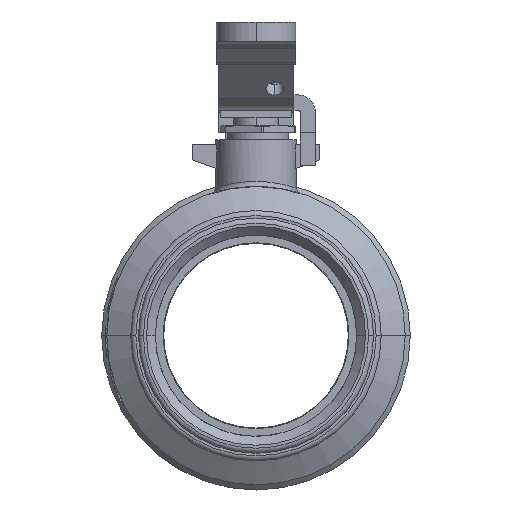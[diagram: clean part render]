
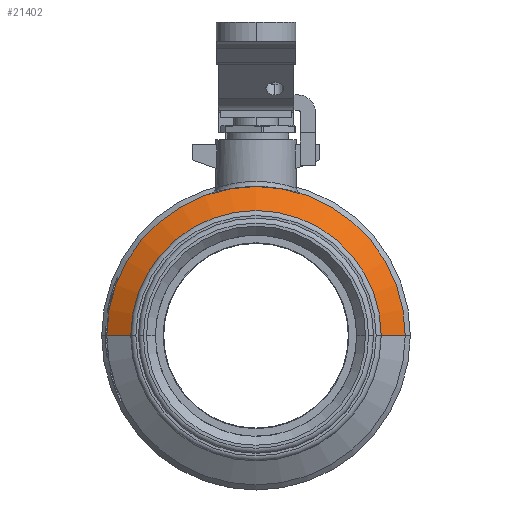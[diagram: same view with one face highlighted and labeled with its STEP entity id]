
A CAD part, left-side view. The second image highlights one B-rep face of the part: STEP entity #21402.
In plain terms, the highlighted conical face has half-angle 57.925 degrees and reference radius 49.5 mm.
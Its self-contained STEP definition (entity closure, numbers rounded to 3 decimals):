
#418 = CYLINDRICAL_SURFACE('',#419,59.);
#419 = AXIS2_PLACEMENT_3D('',#420,#421,#422);
#420 = CARTESIAN_POINT('',(-98.,0.,0.));
#421 = DIRECTION('',(-1.,0.,0.));
#422 = DIRECTION('',(-0.,-1.,0.));
#20141 = VERTEX_POINT('',#20142);
#20142 = CARTESIAN_POINT('',(-34.,59.,0.));
#20163 = EDGE_CURVE('',#20164,#20141,#20166,.T.);
#20164 = VERTEX_POINT('',#20165);
#20165 = CARTESIAN_POINT('',(-34.,-59.,0.));
#20166 = SURFACE_CURVE('',#20167,(#20172,#20179),.PCURVE_S1.);
#20167 = CIRCLE('',#20168,59.);
#20168 = AXIS2_PLACEMENT_3D('',#20169,#20170,#20171);
#20169 = CARTESIAN_POINT('',(-34.,0.,0.));
#20170 = DIRECTION('',(-1.,0.,0.));
#20171 = DIRECTION('',(-0.,-1.,0.));
#20172 = PCURVE('',#418,#20173);
#20173 = DEFINITIONAL_REPRESENTATION('',(#20174),#20178);
#20174 = LINE('',#20175,#20176);
#20175 = CARTESIAN_POINT('',(0.,-64.));
#20176 = VECTOR('',#20177,1.);
#20177 = DIRECTION('',(1.,0.));
#20178 = ( GEOMETRIC_REPRESENTATION_CONTEXT(2) 
PARAMETRIC_REPRESENTATION_CONTEXT() REPRESENTATION_CONTEXT('2D SPACE',''
  ) );
#20179 = PCURVE('',#20180,#20185);
#20180 = CONICAL_SURFACE('',#20181,49.5,1.011);
#20181 = AXIS2_PLACEMENT_3D('',#20182,#20183,#20184);
#20182 = CARTESIAN_POINT('',(-39.953,0.,0.));
#20183 = DIRECTION('',(1.,0.,0.));
#20184 = DIRECTION('',(-0.,1.,0.));
#20185 = DEFINITIONAL_REPRESENTATION('',(#20186),#20190);
#20186 = LINE('',#20187,#20188);
#20187 = CARTESIAN_POINT('',(3.142,5.953));
#20188 = VECTOR('',#20189,1.);
#20189 = DIRECTION('',(-1.,0.));
#20190 = ( GEOMETRIC_REPRESENTATION_CONTEXT(2) 
PARAMETRIC_REPRESENTATION_CONTEXT() REPRESENTATION_CONTEXT('2D SPACE',''
  ) );
#21402 = ADVANCED_FACE('',(#21403),#20180,.T.);
#21403 = FACE_BOUND('',#21404,.T.);
#21404 = EDGE_LOOP('',(#21405,#21436,#21462,#21463));
#21405 = ORIENTED_EDGE('',*,*,#21406,.F.);
#21406 = EDGE_CURVE('',#21407,#21409,#21411,.T.);
#21407 = VERTEX_POINT('',#21408);
#21408 = CARTESIAN_POINT('',(-39.953,-49.5,
    0.));
#21409 = VERTEX_POINT('',#21410);
#21410 = CARTESIAN_POINT('',(-39.953,49.5,
    0.));
#21411 = SURFACE_CURVE('',#21412,(#21417,#21424),.PCURVE_S1.);
#21412 = CIRCLE('',#21413,49.5);
#21413 = AXIS2_PLACEMENT_3D('',#21414,#21415,#21416);
#21414 = CARTESIAN_POINT('',(-39.953,0.,0.));
#21415 = DIRECTION('',(-1.,0.,0.));
#21416 = DIRECTION('',(-0.,-1.,0.));
#21417 = PCURVE('',#20180,#21418);
#21418 = DEFINITIONAL_REPRESENTATION('',(#21419),#21423);
#21419 = LINE('',#21420,#21421);
#21420 = CARTESIAN_POINT('',(3.142,0.));
#21421 = VECTOR('',#21422,1.);
#21422 = DIRECTION('',(-1.,0.));
#21423 = ( GEOMETRIC_REPRESENTATION_CONTEXT(2) 
PARAMETRIC_REPRESENTATION_CONTEXT() REPRESENTATION_CONTEXT('2D SPACE',''
  ) );
#21424 = PCURVE('',#21425,#21430);
#21425 = CYLINDRICAL_SURFACE('',#21426,49.5);
#21426 = AXIS2_PLACEMENT_3D('',#21427,#21428,#21429);
#21427 = CARTESIAN_POINT('',(-98.,0.,0.));
#21428 = DIRECTION('',(-1.,0.,0.));
#21429 = DIRECTION('',(-0.,-1.,0.));
#21430 = DEFINITIONAL_REPRESENTATION('',(#21431),#21435);
#21431 = LINE('',#21432,#21433);
#21432 = CARTESIAN_POINT('',(0.,-58.047));
#21433 = VECTOR('',#21434,1.);
#21434 = DIRECTION('',(1.,0.));
#21435 = ( GEOMETRIC_REPRESENTATION_CONTEXT(2) 
PARAMETRIC_REPRESENTATION_CONTEXT() REPRESENTATION_CONTEXT('2D SPACE',''
  ) );
#21436 = ORIENTED_EDGE('',*,*,#21437,.T.);
#21437 = EDGE_CURVE('',#21407,#20164,#21438,.T.);
#21438 = SURFACE_CURVE('',#21439,(#21443,#21450),.PCURVE_S1.);
#21439 = LINE('',#21440,#21441);
#21440 = CARTESIAN_POINT('',(-39.953,-49.5,
    0.));
#21441 = VECTOR('',#21442,1.);
#21442 = DIRECTION('',(0.531,-0.847,
    0.));
#21443 = PCURVE('',#20180,#21444);
#21444 = DEFINITIONAL_REPRESENTATION('',(#21445),#21449);
#21445 = LINE('',#21446,#21447);
#21446 = CARTESIAN_POINT('',(3.142,0.));
#21447 = VECTOR('',#21448,1.);
#21448 = DIRECTION('',(0.,1.));
#21449 = ( GEOMETRIC_REPRESENTATION_CONTEXT(2) 
PARAMETRIC_REPRESENTATION_CONTEXT() REPRESENTATION_CONTEXT('2D SPACE',''
  ) );
#21450 = PCURVE('',#21451,#21456);
#21451 = CONICAL_SURFACE('',#21452,49.5,1.011);
#21452 = AXIS2_PLACEMENT_3D('',#21453,#21454,#21455);
#21453 = CARTESIAN_POINT('',(-39.953,0.,0.));
#21454 = DIRECTION('',(1.,0.,0.));
#21455 = DIRECTION('',(-0.,1.,0.));
#21456 = DEFINITIONAL_REPRESENTATION('',(#21457),#21461);
#21457 = LINE('',#21458,#21459);
#21458 = CARTESIAN_POINT('',(3.142,0.));
#21459 = VECTOR('',#21460,1.);
#21460 = DIRECTION('',(0.,1.));
#21461 = ( GEOMETRIC_REPRESENTATION_CONTEXT(2) 
PARAMETRIC_REPRESENTATION_CONTEXT() REPRESENTATION_CONTEXT('2D SPACE',''
  ) );
#21462 = ORIENTED_EDGE('',*,*,#20163,.T.);
#21463 = ORIENTED_EDGE('',*,*,#21464,.F.);
#21464 = EDGE_CURVE('',#21409,#20141,#21465,.T.);
#21465 = SURFACE_CURVE('',#21466,(#21470,#21477),.PCURVE_S1.);
#21466 = LINE('',#21467,#21468);
#21467 = CARTESIAN_POINT('',(-39.953,49.5,
    0.));
#21468 = VECTOR('',#21469,1.);
#21469 = DIRECTION('',(0.531,0.847,0.)
  );
#21470 = PCURVE('',#20180,#21471);
#21471 = DEFINITIONAL_REPRESENTATION('',(#21472),#21476);
#21472 = LINE('',#21473,#21474);
#21473 = CARTESIAN_POINT('',(0.,0.));
#21474 = VECTOR('',#21475,1.);
#21475 = DIRECTION('',(0.,1.));
#21476 = ( GEOMETRIC_REPRESENTATION_CONTEXT(2) 
PARAMETRIC_REPRESENTATION_CONTEXT() REPRESENTATION_CONTEXT('2D SPACE',''
  ) );
#21477 = PCURVE('',#21451,#21478);
#21478 = DEFINITIONAL_REPRESENTATION('',(#21479),#21483);
#21479 = LINE('',#21480,#21481);
#21480 = CARTESIAN_POINT('',(6.283,0.));
#21481 = VECTOR('',#21482,1.);
#21482 = DIRECTION('',(0.,1.));
#21483 = ( GEOMETRIC_REPRESENTATION_CONTEXT(2) 
PARAMETRIC_REPRESENTATION_CONTEXT() REPRESENTATION_CONTEXT('2D SPACE',''
  ) );
